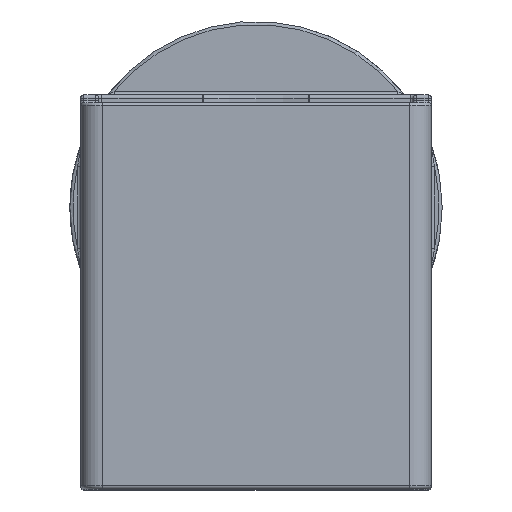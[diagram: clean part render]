
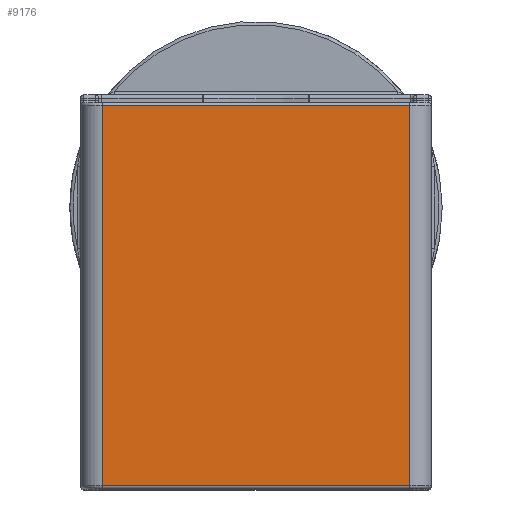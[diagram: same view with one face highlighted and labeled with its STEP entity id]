
A CAD part, top view. The second image highlights one B-rep face of the part: STEP entity #9176.
In plain terms, the highlighted planar face has unit normal (0, 0, 1).
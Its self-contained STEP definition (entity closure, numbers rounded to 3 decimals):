
#2020 = CYLINDRICAL_SURFACE('',#2021,2.5);
#2021 = AXIS2_PLACEMENT_3D('',#2022,#2023,#2024);
#2022 = CARTESIAN_POINT('',(17.75,-32.6,63.));
#2023 = DIRECTION('',(0.,1.,0.));
#2024 = DIRECTION('',(0.,0.,1.));
#4594 = EDGE_CURVE('',#4595,#4597,#4599,.T.);
#4595 = VERTEX_POINT('',#4596);
#4596 = CARTESIAN_POINT('',(17.75,-32.24,65.5));
#4597 = VERTEX_POINT('',#4598);
#4598 = CARTESIAN_POINT('',(17.75,11.64,65.5));
#4599 = SURFACE_CURVE('',#4600,(#4604,#4611),.PCURVE_S1.);
#4600 = LINE('',#4601,#4602);
#4601 = CARTESIAN_POINT('',(17.75,-32.6,65.5));
#4602 = VECTOR('',#4603,1.);
#4603 = DIRECTION('',(0.,1.,0.));
#4604 = PCURVE('',#2020,#4605);
#4605 = DEFINITIONAL_REPRESENTATION('',(#4606),#4610);
#4606 = LINE('',#4607,#4608);
#4607 = CARTESIAN_POINT('',(0.,0.));
#4608 = VECTOR('',#4609,1.);
#4609 = DIRECTION('',(0.,1.));
#4610 = ( GEOMETRIC_REPRESENTATION_CONTEXT(2) 
PARAMETRIC_REPRESENTATION_CONTEXT() REPRESENTATION_CONTEXT('2D SPACE',''
  ) );
#4611 = PCURVE('',#4612,#4617);
#4612 = PLANE('',#4613);
#4613 = AXIS2_PLACEMENT_3D('',#4614,#4615,#4616);
#4614 = CARTESIAN_POINT('',(20.25,-32.6,65.5));
#4615 = DIRECTION('',(0.,0.,-1.));
#4616 = DIRECTION('',(0.,1.,0.));
#4617 = DEFINITIONAL_REPRESENTATION('',(#4618),#4622);
#4618 = LINE('',#4619,#4620);
#4619 = CARTESIAN_POINT('',(0.,-2.5));
#4620 = VECTOR('',#4621,1.);
#4621 = DIRECTION('',(1.,0.));
#4622 = ( GEOMETRIC_REPRESENTATION_CONTEXT(2) 
PARAMETRIC_REPRESENTATION_CONTEXT() REPRESENTATION_CONTEXT('2D SPACE',''
  ) );
#5118 = CYLINDRICAL_SURFACE('',#5119,0.36);
#5119 = AXIS2_PLACEMENT_3D('',#5120,#5121,#5122);
#5120 = CARTESIAN_POINT('',(-17.75,-32.24,65.14));
#5121 = DIRECTION('',(1.,-0.,-0.));
#5122 = DIRECTION('',(0.,-0.,1.));
#5842 = CYLINDRICAL_SURFACE('',#5843,2.5);
#5843 = AXIS2_PLACEMENT_3D('',#5844,#5845,#5846);
#5844 = CARTESIAN_POINT('',(-17.75,-32.6,63.));
#5845 = DIRECTION('',(0.,1.,0.));
#5846 = DIRECTION('',(0.,0.,1.));
#9176 = ADVANCED_FACE('',(#9177),#4612,.F.);
#9177 = FACE_BOUND('',#9178,.F.);
#9178 = EDGE_LOOP('',(#9179,#9180,#9203,#9226));
#9179 = ORIENTED_EDGE('',*,*,#4594,.F.);
#9180 = ORIENTED_EDGE('',*,*,#9181,.F.);
#9181 = EDGE_CURVE('',#9182,#4595,#9184,.T.);
#9182 = VERTEX_POINT('',#9183);
#9183 = CARTESIAN_POINT('',(-17.75,-32.24,65.5));
#9184 = SURFACE_CURVE('',#9185,(#9189,#9196),.PCURVE_S1.);
#9185 = LINE('',#9186,#9187);
#9186 = CARTESIAN_POINT('',(-17.75,-32.24,65.5));
#9187 = VECTOR('',#9188,1.);
#9188 = DIRECTION('',(1.,-0.,-0.));
#9189 = PCURVE('',#4612,#9190);
#9190 = DEFINITIONAL_REPRESENTATION('',(#9191),#9195);
#9191 = LINE('',#9192,#9193);
#9192 = CARTESIAN_POINT('',(0.36,-38.));
#9193 = VECTOR('',#9194,1.);
#9194 = DIRECTION('',(0.,1.));
#9195 = ( GEOMETRIC_REPRESENTATION_CONTEXT(2) 
PARAMETRIC_REPRESENTATION_CONTEXT() REPRESENTATION_CONTEXT('2D SPACE',''
  ) );
#9196 = PCURVE('',#5118,#9197);
#9197 = DEFINITIONAL_REPRESENTATION('',(#9198),#9202);
#9198 = LINE('',#9199,#9200);
#9199 = CARTESIAN_POINT('',(0.,0.));
#9200 = VECTOR('',#9201,1.);
#9201 = DIRECTION('',(0.,1.));
#9202 = ( GEOMETRIC_REPRESENTATION_CONTEXT(2) 
PARAMETRIC_REPRESENTATION_CONTEXT() REPRESENTATION_CONTEXT('2D SPACE',''
  ) );
#9203 = ORIENTED_EDGE('',*,*,#9204,.T.);
#9204 = EDGE_CURVE('',#9182,#9205,#9207,.T.);
#9205 = VERTEX_POINT('',#9206);
#9206 = CARTESIAN_POINT('',(-17.75,11.64,65.5));
#9207 = SURFACE_CURVE('',#9208,(#9212,#9219),.PCURVE_S1.);
#9208 = LINE('',#9209,#9210);
#9209 = CARTESIAN_POINT('',(-17.75,-32.6,65.5));
#9210 = VECTOR('',#9211,1.);
#9211 = DIRECTION('',(0.,1.,0.));
#9212 = PCURVE('',#4612,#9213);
#9213 = DEFINITIONAL_REPRESENTATION('',(#9214),#9218);
#9214 = LINE('',#9215,#9216);
#9215 = CARTESIAN_POINT('',(0.,-38.));
#9216 = VECTOR('',#9217,1.);
#9217 = DIRECTION('',(1.,0.));
#9218 = ( GEOMETRIC_REPRESENTATION_CONTEXT(2) 
PARAMETRIC_REPRESENTATION_CONTEXT() REPRESENTATION_CONTEXT('2D SPACE',''
  ) );
#9219 = PCURVE('',#5842,#9220);
#9220 = DEFINITIONAL_REPRESENTATION('',(#9221),#9225);
#9221 = LINE('',#9222,#9223);
#9222 = CARTESIAN_POINT('',(-0.,0.));
#9223 = VECTOR('',#9224,1.);
#9224 = DIRECTION('',(-0.,1.));
#9225 = ( GEOMETRIC_REPRESENTATION_CONTEXT(2) 
PARAMETRIC_REPRESENTATION_CONTEXT() REPRESENTATION_CONTEXT('2D SPACE',''
  ) );
#9226 = ORIENTED_EDGE('',*,*,#9227,.T.);
#9227 = EDGE_CURVE('',#9205,#4597,#9228,.T.);
#9228 = SURFACE_CURVE('',#9229,(#9233,#9240),.PCURVE_S1.);
#9229 = LINE('',#9230,#9231);
#9230 = CARTESIAN_POINT('',(-17.75,11.64,65.5));
#9231 = VECTOR('',#9232,1.);
#9232 = DIRECTION('',(1.,-0.,-0.));
#9233 = PCURVE('',#4612,#9234);
#9234 = DEFINITIONAL_REPRESENTATION('',(#9235),#9239);
#9235 = LINE('',#9236,#9237);
#9236 = CARTESIAN_POINT('',(44.24,-38.));
#9237 = VECTOR('',#9238,1.);
#9238 = DIRECTION('',(0.,1.));
#9239 = ( GEOMETRIC_REPRESENTATION_CONTEXT(2) 
PARAMETRIC_REPRESENTATION_CONTEXT() REPRESENTATION_CONTEXT('2D SPACE',''
  ) );
#9240 = PCURVE('',#9241,#9246);
#9241 = CYLINDRICAL_SURFACE('',#9242,0.36);
#9242 = AXIS2_PLACEMENT_3D('',#9243,#9244,#9245);
#9243 = CARTESIAN_POINT('',(-17.75,11.64,65.14));
#9244 = DIRECTION('',(1.,-0.,-0.));
#9245 = DIRECTION('',(0.,-0.,1.));
#9246 = DEFINITIONAL_REPRESENTATION('',(#9247),#9251);
#9247 = LINE('',#9248,#9249);
#9248 = CARTESIAN_POINT('',(-0.,0.));
#9249 = VECTOR('',#9250,1.);
#9250 = DIRECTION('',(-0.,1.));
#9251 = ( GEOMETRIC_REPRESENTATION_CONTEXT(2) 
PARAMETRIC_REPRESENTATION_CONTEXT() REPRESENTATION_CONTEXT('2D SPACE',''
  ) );
